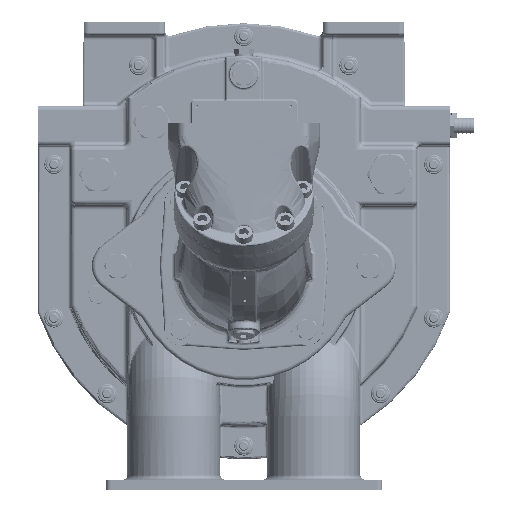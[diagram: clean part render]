
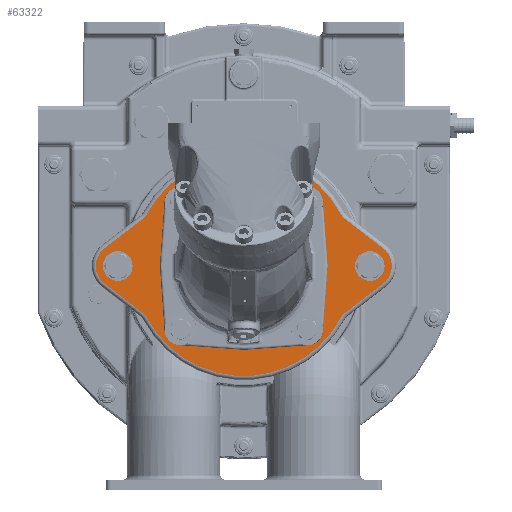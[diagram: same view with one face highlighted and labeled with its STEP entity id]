
A CAD part, left-side view. The second image highlights one B-rep face of the part: STEP entity #63322.
In plain terms, the highlighted planar face has unit normal (-1, 0, 0) as drawn and (0, 1, 0) by its records, which use the part's own axes.
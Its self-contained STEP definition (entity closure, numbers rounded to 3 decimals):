
#6884=FACE_BOUND('',#14542,.T.);
#6885=FACE_BOUND('',#14543,.T.);
#6886=FACE_BOUND('',#14544,.T.);
#6887=FACE_BOUND('',#14545,.T.);
#6888=FACE_BOUND('',#14546,.T.);
#6889=FACE_BOUND('',#14547,.T.);
#6890=FACE_BOUND('',#14548,.T.);
#8202=PLANE('',#67506);
#10684=FACE_OUTER_BOUND('',#14541,.T.);
#14541=EDGE_LOOP('',(#45678,#45679,#45680,#45681,#45682,#45683,#45684,#45685,
#45686,#45687,#45688,#45689));
#14542=EDGE_LOOP('',(#45690));
#14543=EDGE_LOOP('',(#45691));
#14544=EDGE_LOOP('',(#45692));
#14545=EDGE_LOOP('',(#45693));
#14546=EDGE_LOOP('',(#45694));
#14547=EDGE_LOOP('',(#45695));
#14548=EDGE_LOOP('',(#45696));
#18843=LINE('',#92994,#22515);
#18844=LINE('',#92998,#22516);
#18845=LINE('',#93006,#22517);
#18846=LINE('',#93010,#22518);
#22515=VECTOR('',#74713,10.);
#22516=VECTOR('',#74716,10.);
#22517=VECTOR('',#74723,10.);
#22518=VECTOR('',#74726,10.);
#25921=CIRCLE('',#67481,6.92);
#25923=CIRCLE('',#67484,6.92);
#25926=CIRCLE('',#67488,6.92);
#25928=CIRCLE('',#67491,6.92);
#25936=CIRCLE('',#67505,91.5);
#25937=CIRCLE('',#67507,137.5);
#25938=CIRCLE('',#67508,20.);
#25939=CIRCLE('',#67509,28.);
#25940=CIRCLE('',#67510,20.);
#25941=CIRCLE('',#67511,137.5);
#25942=CIRCLE('',#67512,20.);
#25943=CIRCLE('',#67513,28.);
#25944=CIRCLE('',#67514,20.);
#25945=CIRCLE('',#67515,18.5);
#25946=CIRCLE('',#67516,18.5);
#29317=VERTEX_POINT('',#92938);
#29318=VERTEX_POINT('',#92943);
#29320=VERTEX_POINT('',#92950);
#29321=VERTEX_POINT('',#92955);
#29329=VERTEX_POINT('',#92984);
#29330=VERTEX_POINT('',#92988);
#29331=VERTEX_POINT('',#92989);
#29332=VERTEX_POINT('',#92991);
#29333=VERTEX_POINT('',#92993);
#29334=VERTEX_POINT('',#92995);
#29335=VERTEX_POINT('',#92997);
#29336=VERTEX_POINT('',#92999);
#29337=VERTEX_POINT('',#93001);
#29338=VERTEX_POINT('',#93003);
#29339=VERTEX_POINT('',#93005);
#29340=VERTEX_POINT('',#93007);
#29341=VERTEX_POINT('',#93009);
#29342=VERTEX_POINT('',#93012);
#29343=VERTEX_POINT('',#93014);
#35475=EDGE_CURVE('',#29317,#29317,#25921,.T.);
#35478=EDGE_CURVE('',#29318,#29318,#25923,.T.);
#35482=EDGE_CURVE('',#29320,#29320,#25926,.T.);
#35485=EDGE_CURVE('',#29321,#29321,#25928,.T.);
#35500=EDGE_CURVE('',#29329,#29329,#25936,.T.);
#35502=EDGE_CURVE('',#29330,#29331,#25937,.T.);
#35503=EDGE_CURVE('',#29332,#29330,#25938,.T.);
#35504=EDGE_CURVE('',#29333,#29332,#18843,.T.);
#35505=EDGE_CURVE('',#29334,#29333,#25939,.T.);
#35506=EDGE_CURVE('',#29335,#29334,#18844,.T.);
#35507=EDGE_CURVE('',#29336,#29335,#25940,.T.);
#35508=EDGE_CURVE('',#29337,#29336,#25941,.T.);
#35509=EDGE_CURVE('',#29338,#29337,#25942,.T.);
#35510=EDGE_CURVE('',#29339,#29338,#18845,.T.);
#35511=EDGE_CURVE('',#29340,#29339,#25943,.T.);
#35512=EDGE_CURVE('',#29341,#29340,#18846,.T.);
#35513=EDGE_CURVE('',#29331,#29341,#25944,.T.);
#35514=EDGE_CURVE('',#29342,#29342,#25945,.T.);
#35515=EDGE_CURVE('',#29343,#29343,#25946,.T.);
#45678=ORIENTED_EDGE('',*,*,#35502,.F.);
#45679=ORIENTED_EDGE('',*,*,#35503,.F.);
#45680=ORIENTED_EDGE('',*,*,#35504,.F.);
#45681=ORIENTED_EDGE('',*,*,#35505,.F.);
#45682=ORIENTED_EDGE('',*,*,#35506,.F.);
#45683=ORIENTED_EDGE('',*,*,#35507,.F.);
#45684=ORIENTED_EDGE('',*,*,#35508,.F.);
#45685=ORIENTED_EDGE('',*,*,#35509,.F.);
#45686=ORIENTED_EDGE('',*,*,#35510,.F.);
#45687=ORIENTED_EDGE('',*,*,#35511,.F.);
#45688=ORIENTED_EDGE('',*,*,#35512,.F.);
#45689=ORIENTED_EDGE('',*,*,#35513,.F.);
#45690=ORIENTED_EDGE('',*,*,#35514,.T.);
#45691=ORIENTED_EDGE('',*,*,#35515,.T.);
#45692=ORIENTED_EDGE('',*,*,#35500,.F.);
#45693=ORIENTED_EDGE('',*,*,#35485,.T.);
#45694=ORIENTED_EDGE('',*,*,#35482,.T.);
#45695=ORIENTED_EDGE('',*,*,#35478,.T.);
#45696=ORIENTED_EDGE('',*,*,#35475,.T.);
#63322=ADVANCED_FACE('',(#10684,#6884,#6885,#6886,#6887,#6888,#6889,#6890),
#8202,.T.);
#67481=AXIS2_PLACEMENT_3D('',#92939,#74646,#74647);
#67484=AXIS2_PLACEMENT_3D('',#92944,#74653,#74654);
#67488=AXIS2_PLACEMENT_3D('',#92951,#74662,#74663);
#67491=AXIS2_PLACEMENT_3D('',#92956,#74669,#74670);
#67505=AXIS2_PLACEMENT_3D('',#92985,#74704,#74705);
#67506=AXIS2_PLACEMENT_3D('',#92987,#74707,#74708);
#67507=AXIS2_PLACEMENT_3D('',#92990,#74709,#74710);
#67508=AXIS2_PLACEMENT_3D('',#92992,#74711,#74712);
#67509=AXIS2_PLACEMENT_3D('',#92996,#74714,#74715);
#67510=AXIS2_PLACEMENT_3D('',#93000,#74717,#74718);
#67511=AXIS2_PLACEMENT_3D('',#93002,#74719,#74720);
#67512=AXIS2_PLACEMENT_3D('',#93004,#74721,#74722);
#67513=AXIS2_PLACEMENT_3D('',#93008,#74724,#74725);
#67514=AXIS2_PLACEMENT_3D('',#93011,#74727,#74728);
#67515=AXIS2_PLACEMENT_3D('',#93013,#74729,#74730);
#67516=AXIS2_PLACEMENT_3D('',#93015,#74731,#74732);
#74646=DIRECTION('center_axis',(0.,-1.,0.));
#74647=DIRECTION('ref_axis',(-1.,0.,0.));
#74653=DIRECTION('center_axis',(0.,-1.,0.));
#74654=DIRECTION('ref_axis',(-1.,0.,0.));
#74662=DIRECTION('center_axis',(0.,-1.,0.));
#74663=DIRECTION('ref_axis',(-1.,0.,0.));
#74669=DIRECTION('center_axis',(0.,-1.,0.));
#74670=DIRECTION('ref_axis',(-1.,0.,0.));
#74704=DIRECTION('center_axis',(0.,1.,0.));
#74705=DIRECTION('ref_axis',(1.,0.,0.));
#74707=DIRECTION('center_axis',(0.,1.,0.));
#74708=DIRECTION('ref_axis',(-1.,0.,0.));
#74709=DIRECTION('center_axis',(0.,-1.,0.));
#74710=DIRECTION('ref_axis',(0.,0.,1.));
#74711=DIRECTION('center_axis',(0.,1.,0.));
#74712=DIRECTION('ref_axis',(-0.762,0.,-0.648));
#74713=DIRECTION('',(-0.793,0.,0.609));
#74714=DIRECTION('center_axis',(0.,-1.,0.));
#74715=DIRECTION('ref_axis',(1.,0.,0.));
#74716=DIRECTION('',(0.793,0.,0.609));
#74717=DIRECTION('center_axis',(0.,1.,0.));
#74718=DIRECTION('ref_axis',(-0.762,0.,0.648));
#74719=DIRECTION('center_axis',(0.,-1.,0.));
#74720=DIRECTION('ref_axis',(0.,0.,-1.));
#74721=DIRECTION('center_axis',(0.,1.,0.));
#74722=DIRECTION('ref_axis',(0.762,0.,0.648));
#74723=DIRECTION('',(0.793,0.,-0.609));
#74724=DIRECTION('center_axis',(0.,-1.,0.));
#74725=DIRECTION('ref_axis',(-1.,0.,0.));
#74726=DIRECTION('',(-0.793,0.,-0.609));
#74727=DIRECTION('center_axis',(0.,1.,0.));
#74728=DIRECTION('ref_axis',(0.762,0.,-0.648));
#74729=DIRECTION('center_axis',(0.,-1.,0.));
#74730=DIRECTION('ref_axis',(-1.,0.,0.));
#74731=DIRECTION('center_axis',(0.,-1.,0.));
#74732=DIRECTION('ref_axis',(-1.,0.,0.));
#92938=CARTESIAN_POINT('',(86.12,294.,79.2));
#92939=CARTESIAN_POINT('Origin',(79.2,294.,79.2));
#92943=CARTESIAN_POINT('',(-72.28,294.,79.2));
#92944=CARTESIAN_POINT('Origin',(-79.2,294.,79.2));
#92950=CARTESIAN_POINT('',(86.12,294.,-79.2));
#92951=CARTESIAN_POINT('Origin',(79.2,294.,-79.2));
#92955=CARTESIAN_POINT('',(-72.28,294.,-79.2));
#92956=CARTESIAN_POINT('Origin',(-79.2,294.,-79.2));
#92984=CARTESIAN_POINT('',(-91.5,294.,0.));
#92985=CARTESIAN_POINT('Origin',(0.,294.,0.));
#92987=CARTESIAN_POINT('Origin',(0.,294.,0.));
#92988=CARTESIAN_POINT('',(121.15,294.,65.031));
#92989=CARTESIAN_POINT('',(-121.15,294.,65.031));
#92990=CARTESIAN_POINT('Origin',(0.,294.,0.));
#92991=CARTESIAN_POINT('',(126.596,294.,58.623));
#92992=CARTESIAN_POINT('Origin',(138.771,294.,74.49));
#92993=CARTESIAN_POINT('',(174.045,294.,22.214));
#92994=CARTESIAN_POINT('',(124.637,294.,60.126));
#92995=CARTESIAN_POINT('',(174.045,294.,-22.214));
#92996=CARTESIAN_POINT('Origin',(157.,294.,0.));
#92997=CARTESIAN_POINT('',(126.596,294.,-58.623));
#92998=CARTESIAN_POINT('',(99.599,294.,-79.339));
#92999=CARTESIAN_POINT('',(121.15,294.,-65.031));
#93000=CARTESIAN_POINT('Origin',(138.771,294.,-74.49));
#93001=CARTESIAN_POINT('',(-121.15,294.,-65.031));
#93002=CARTESIAN_POINT('Origin',(0.,294.,0.));
#93003=CARTESIAN_POINT('',(-126.596,294.,-58.623));
#93004=CARTESIAN_POINT('Origin',(-138.771,294.,-74.49));
#93005=CARTESIAN_POINT('',(-174.045,294.,-22.214));
#93006=CARTESIAN_POINT('',(-124.637,294.,-60.126));
#93007=CARTESIAN_POINT('',(-174.045,294.,22.214));
#93008=CARTESIAN_POINT('Origin',(-157.,294.,0.));
#93009=CARTESIAN_POINT('',(-126.596,294.,58.623));
#93010=CARTESIAN_POINT('',(-99.599,294.,79.339));
#93011=CARTESIAN_POINT('Origin',(-138.771,294.,74.49));
#93012=CARTESIAN_POINT('',(-139.,294.,0.));
#93013=CARTESIAN_POINT('Origin',(-157.5,294.,0.));
#93014=CARTESIAN_POINT('',(176.,294.,0.));
#93015=CARTESIAN_POINT('Origin',(157.5,294.,0.));
